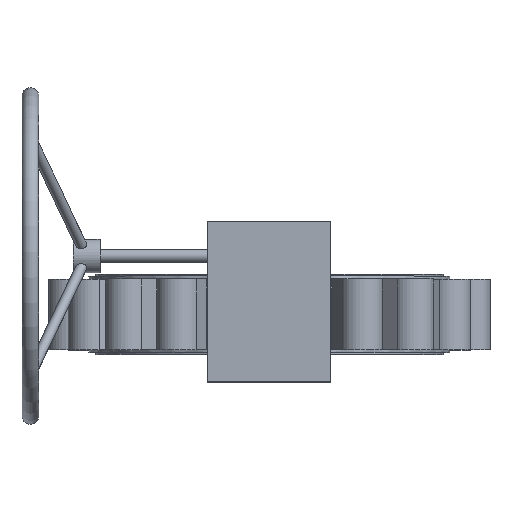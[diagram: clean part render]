
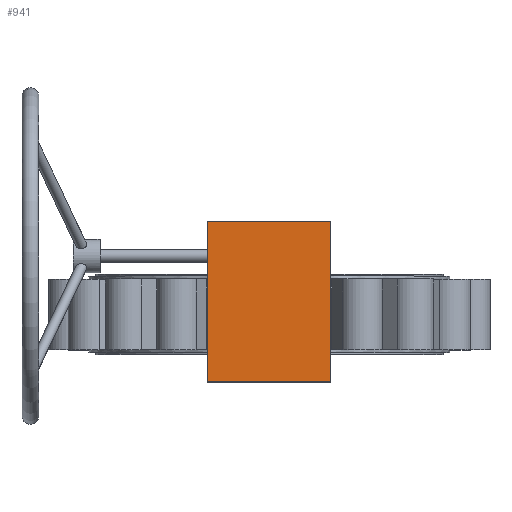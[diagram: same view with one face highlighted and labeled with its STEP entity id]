
A CAD part, top view. The second image highlights one B-rep face of the part: STEP entity #941.
In plain terms, the highlighted planar face has unit normal (0, 0, 1) as drawn and (0, 1, 0) by its records, which use the part's own axes.
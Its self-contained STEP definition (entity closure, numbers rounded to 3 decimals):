
#161 = DIRECTION ( 'NONE',  ( 0., 1., 0. ) ) ;
#245 = DIRECTION ( 'NONE',  ( -1., 0., 0. ) ) ;
#419 = VERTEX_POINT ( 'NONE', #1044 ) ;
#514 = CARTESIAN_POINT ( 'NONE',  ( -91.394, 103.14, 101.095 ) ) ;
#594 = LINE ( 'NONE', #1641, #5618 ) ;
#602 = ORIENTED_EDGE ( 'NONE', *, *, #5926, .T. ) ;
#705 = CARTESIAN_POINT ( 'NONE',  ( 91.394, 103.14, 101.095 ) ) ;
#828 = LINE ( 'NONE', #3508, #5401 ) ;
#941 = ADVANCED_FACE ( 'NONE', ( #2087 ), #2122, .T. ) ;
#995 = ORIENTED_EDGE ( 'NONE', *, *, #2902, .T. ) ;
#1044 = CARTESIAN_POINT ( 'NONE',  ( 91.394, 103.14, -137.072 ) ) ;
#1081 = CARTESIAN_POINT ( 'NONE',  ( -91.394, 103.14, -137.072 ) ) ;
#1199 = DIRECTION ( 'NONE',  ( 0., 0., 1. ) ) ;
#1367 = VERTEX_POINT ( 'NONE', #1081 ) ;
#1641 = CARTESIAN_POINT ( 'NONE',  ( -91.394, 103.14, 101.095 ) ) ;
#1656 = DIRECTION ( 'NONE',  ( 0., 0., -1. ) ) ;
#2002 = EDGE_CURVE ( 'NONE', #1367, #4720, #594, .T. ) ;
#2055 = DIRECTION ( 'NONE',  ( -1., 0., 0. ) ) ;
#2087 = FACE_OUTER_BOUND ( 'NONE', #3814, .T. ) ;
#2122 = PLANE ( 'NONE',  #2362 ) ;
#2362 = AXIS2_PLACEMENT_3D ( 'NONE', #2674, #161, #245 ) ;
#2440 = EDGE_CURVE ( 'NONE', #4720, #3141, #4644, .T. ) ;
#2497 = CARTESIAN_POINT ( 'NONE',  ( -91.394, 103.14, 101.095 ) ) ;
#2674 = CARTESIAN_POINT ( 'NONE',  ( 0., 103.14, 0. ) ) ;
#2902 = EDGE_CURVE ( 'NONE', #419, #1367, #828, .T. ) ;
#3141 = VERTEX_POINT ( 'NONE', #6111 ) ;
#3161 = VECTOR ( 'NONE', #1656, 1000. ) ;
#3508 = CARTESIAN_POINT ( 'NONE',  ( -91.394, 103.14, -137.072 ) ) ;
#3814 = EDGE_LOOP ( 'NONE', ( #5212, #602, #995, #5933 ) ) ;
#4457 = LINE ( 'NONE', #705, #3161 ) ;
#4491 = VECTOR ( 'NONE', #4811, 1000. ) ;
#4644 = LINE ( 'NONE', #514, #4491 ) ;
#4720 = VERTEX_POINT ( 'NONE', #2497 ) ;
#4811 = DIRECTION ( 'NONE',  ( 1., 0., 0. ) ) ;
#5212 = ORIENTED_EDGE ( 'NONE', *, *, #2440, .T. ) ;
#5401 = VECTOR ( 'NONE', #2055, 1000. ) ;
#5618 = VECTOR ( 'NONE', #1199, 1000. ) ;
#5926 = EDGE_CURVE ( 'NONE', #3141, #419, #4457, .T. ) ;
#5933 = ORIENTED_EDGE ( 'NONE', *, *, #2002, .T. ) ;
#6111 = CARTESIAN_POINT ( 'NONE',  ( 91.394, 103.14, 101.095 ) ) ;
